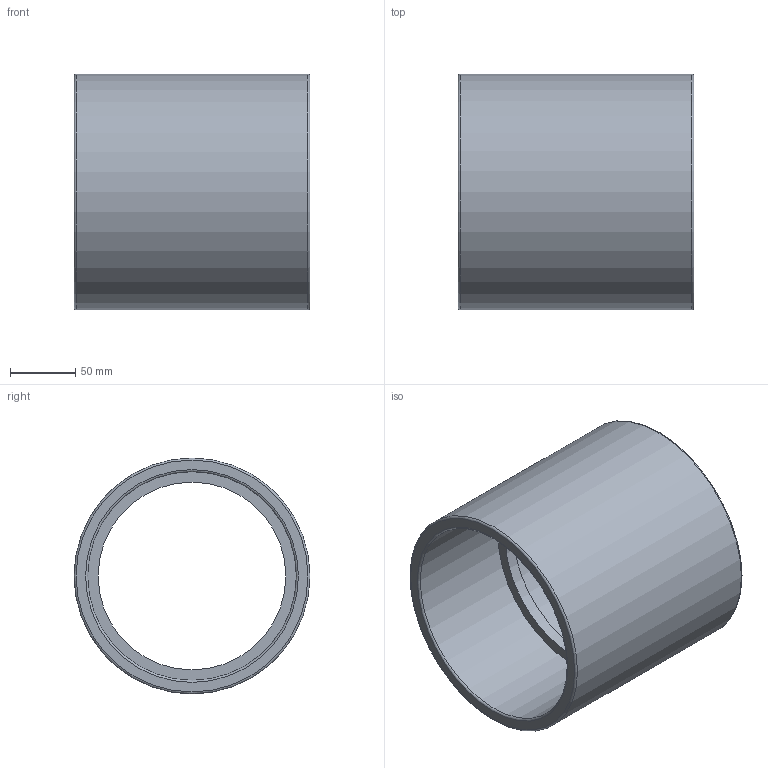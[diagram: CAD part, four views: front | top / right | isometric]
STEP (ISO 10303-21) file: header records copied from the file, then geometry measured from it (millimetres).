
FILE_DESCRIPTION(/* description */ ('PLASSON SOCKET PVC 160 - CEMENT'),/* implementation_level */ '2;1');
FILE_NAME(/* name */ 'C:\Dropbox\KIMPROJECTS-Inventor\99-16-3568-Processing\PVC Catalog 2017\050100\050100160.ipt.stp',/* time_stamp */ '2017-12-07T15:51:31+02:00',/* author */ ('KIM'),/* organization */ (''),/* preprocessor_version */ 'ST-DEVELOPER v15.6',/* originating_system */ 'Autodesk Inventor 2015',/* authorisation */ '');
FILE_SCHEMA (('AUTOMOTIVE_DESIGN { 1 0 10303 214 3 1 1 }'));
Length unit declared in the file: millimetre
Products named in the file (1): 050100160
Bounding box: 181 x 181 x 181 mm (x, y, z)
Volume: 1051191.3 mm3; surface area: 210867.3 mm2
Topology: 1 solids, 1 shells, 12 faces, 20 edges, 12 vertices
Faces by surface type: torus 4, plane 4, cylinder 4
Full cylindrical faces by diameter (mm): 144 x1, 160 x2, 181 x1
Entity records: 272 total; most frequent: DIRECTION 50, CARTESIAN_POINT 37, AXIS2_PLACEMENT_3D 25, EDGE_LOOP 24, ORIENTED_EDGE 24, FACE_BOUND 12, FACE_OUTER_BOUND 12, CIRCLE 12
